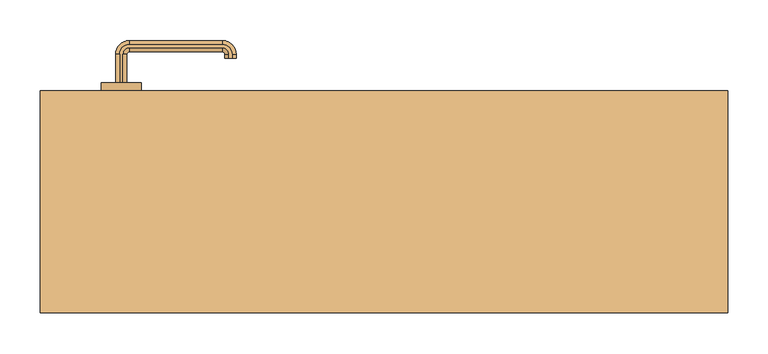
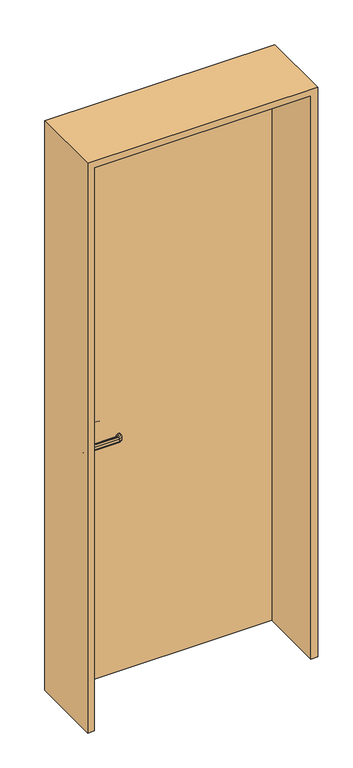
"""IFC4 building model written with IfcOpenShell, lengths in millimetres: door geometry, 片開き : w800h2200（玄関）."""

from ifc_helpers import new_model, si_unit, point, frame, frame_2d, origin, origin_with_axes, place, context, project, spatial, polyline, circle_curve, ellipse_curve, trimmed, segment, composite_curve, outline, extrude, source, transform, mapped, element, save
from ifc_brep_helpers import plane_surface, cylinder_surface, revolved_surface, advanced_brep


def door_82001614(model_context):
    return source(origin(), model_context, "Body", "SolidModel", [
        advanced_brep(
        [(-327.0, 147.5, 960.0), (-332.0, 147.5, 955.0), (-332.0, 147.5, 945.0477623), (-327.0, 147.5, 940.0477623), (-323.0, 147.5, 940.0477623), (-318.0, 147.5, 945.0477623), (-318.0, 147.5, 955.0), (-323.0, 147.5, 960.0), (-327.0, 182.5, 960.0), (-332.0, 182.5, 955.0), (-332.0, 182.5, 945.0477623), (-327.0, 182.5, 940.0477623), (-315.0, 194.5, 940.0477623), (-200.0, 194.5, 940.0477623), (-188.0, 182.5, 940.0477623), (-188.0, 177.5, 940.0477623), (-192.0, 177.5, 940.0477623), (-192.0, 182.5, 940.0477623), (-200.0, 190.5, 940.0477623), (-315.0, 190.5, 940.0477623), (-323.0, 182.5, 940.0477623), (-318.0, 182.5, 945.0477623), (-318.0, 182.5, 955.0), (-323.0, 182.5, 960.0), (-315.0, 190.5, 960.0), (-200.0, 190.5, 960.0), (-192.0, 182.5, 960.0), (-192.0, 177.5, 960.0), (-188.0, 177.5, 960.0), (-188.0, 182.5, 960.0), (-200.0, 194.5, 960.0), (-315.0, 194.5, 960.0), (-315.0, 199.5, 955.0), (-315.0, 199.5, 945.0477623), (-315.0, 185.5, 945.0477623), (-315.0, 185.5, 955.0), (-200.0, 199.5, 955.0), (-200.0, 199.5, 945.0477623), (-200.0, 185.5, 945.0477623), (-200.0, 185.5, 955.0), (-183.0, 182.5, 955.0), (-183.0, 182.5, 945.0477623), (-197.0, 182.5, 945.0477623), (-197.0, 182.5, 955.0), (-197.0, 177.5, 955.0), (-197.0, 177.5, 945.0477623), (-183.0, 177.5, 945.0477623), (-183.0, 177.5, 955.0)],
        [
            (0, 1, circle_curve(frame((-327.0, 147.5, 955.0), z_axis=(0.0, -1.0, 0.0), x_axis=(-1.0, 0.0, 0.0)), 5.0)),
            (1, 2),
            (2, 3, circle_curve(frame((-327.0, 147.5, 945.0477623), z_axis=(0.0, -1.0, 0.0), x_axis=(-1.0, 0.0, 0.0)), 5.0)),
            (3, 4),
            (4, 5, circle_curve(frame((-323.0, 147.5, 945.0477623), z_axis=(0.0, -1.0, 0.0), x_axis=(-1.0, 0.0, 0.0)), 5.0)),
            (5, 6),
            (6, 7, circle_curve(frame((-323.0, 147.5, 955.0), z_axis=(0.0, -1.0, 0.0), x_axis=(-1.0, 0.0, 0.0)), 5.0)),
            (7, 0),
            (0, 8),
            (8, 9, circle_curve(frame((-327.0, 182.5, 955.0), z_axis=(0.0, -1.0, 0.0), x_axis=(-1.0, 0.0, 0.0)), 5.0)),
            (9, 1),
            (9, 10),
            (10, 2),
            (10, 11, circle_curve(frame((-327.0, 182.5, 945.0477623), z_axis=(0.0, -1.0, 0.0), x_axis=(-1.0, 0.0, 0.0)), 5.0)),
            (11, 3),
            (11, 12, circle_curve(frame((-315.0, 182.5, 940.0477623), z_axis=(0.0, 0.0, -1.0), x_axis=(-1.0, 0.0, 0.0)), 12.0)),
            (12, 13),
            (13, 14, circle_curve(frame((-200.0, 182.5, 940.0477623), z_axis=(0.0, 0.0, -1.0), x_axis=(0.0, 1.0, 0.0)), 12.0)),
            (14, 15),
            (15, 16),
            (16, 17),
            (17, 18, circle_curve(frame((-200.0, 182.5, 940.0477623), z_axis=(0.0, 0.0, 1.0), x_axis=(0.0, 1.0, 0.0)), 8.0)),
            (18, 19),
            (19, 20, circle_curve(frame((-315.0, 182.5, 940.0477623), z_axis=(0.0, 0.0, 1.0), x_axis=(-1.0, 0.0, 0.0)), 8.0)),
            (20, 4),
            (20, 21, circle_curve(frame((-323.0, 182.5, 945.0477623), z_axis=(0.0, -1.0, 0.0), x_axis=(-1.0, 0.0, 0.0)), 5.0)),
            (21, 5),
            (21, 22),
            (22, 6),
            (22, 23, circle_curve(frame((-323.0, 182.5, 955.0), z_axis=(0.0, -1.0, 0.0), x_axis=(-1.0, 0.0, 0.0)), 5.0)),
            (23, 7),
            (23, 24, circle_curve(frame((-315.0, 182.5, 960.0), z_axis=(0.0, 0.0, -1.0), x_axis=(-1.0, 0.0, 0.0)), 8.0)),
            (24, 25),
            (25, 26, circle_curve(frame((-200.0, 182.5, 960.0), z_axis=(0.0, 0.0, -1.0), x_axis=(0.0, 1.0, 0.0)), 8.0)),
            (26, 27),
            (27, 28),
            (28, 29),
            (29, 30, circle_curve(frame((-200.0, 182.5, 960.0), z_axis=(0.0, 0.0, 1.0), x_axis=(0.0, 1.0, 0.0)), 12.0)),
            (30, 31),
            (31, 8, circle_curve(frame((-315.0, 182.5, 960.0), z_axis=(0.0, 0.0, 1.0), x_axis=(-1.0, 0.0, 0.0)), 12.0)),
            (32, 9, circle_curve(frame((-315.0, 182.5, 955.0), z_axis=(0.0, 0.0, 1.0), x_axis=(-1.0, 0.0, 0.0)), 17.0)),
            (31, 32, circle_curve(frame((-315.0, 194.5, 955.0), z_axis=(-1.0, 0.0, 0.0), x_axis=(0.0, 1.0, 0.0)), 5.0)),
            (33, 10, circle_curve(frame((-315.0, 182.5, 945.0477623), z_axis=(0.0, 0.0, 1.0), x_axis=(-1.0, 0.0, 0.0)), 17.0)),
            (32, 33),
            (33, 12, circle_curve(frame((-315.0, 194.5, 945.0477623), z_axis=(-1.0, 0.0, 0.0), x_axis=(0.0, 1.0, 0.0)), 5.0)),
            (34, 21, circle_curve(frame((-315.0, 182.5, 945.0477623), z_axis=(0.0, 0.0, 1.0), x_axis=(-1.0, 0.0, 0.0)), 3.0)),
            (19, 34, circle_curve(frame((-315.0, 190.5, 945.0477623), z_axis=(-1.0, 0.0, 0.0), x_axis=(0.0, 1.0, 0.0)), 5.0)),
            (35, 22, circle_curve(frame((-315.0, 182.5, 955.0), z_axis=(0.0, 0.0, 1.0), x_axis=(-1.0, 0.0, 0.0)), 3.0)),
            (34, 35),
            (35, 24, circle_curve(frame((-315.0, 190.5, 955.0), z_axis=(-1.0, 0.0, 0.0), x_axis=(0.0, 1.0, 0.0)), 5.0)),
            (30, 36, circle_curve(frame((-200.0, 194.5, 955.0), z_axis=(-1.0, 0.0, 0.0), x_axis=(0.0, 1.0, 0.0)), 5.0)),
            (36, 32),
            (36, 37),
            (37, 33),
            (37, 13, circle_curve(frame((-200.0, 194.5, 945.0477623), z_axis=(-1.0, 0.0, 0.0), x_axis=(0.0, 1.0, 0.0)), 5.0)),
            (18, 38, circle_curve(frame((-200.0, 190.5, 945.0477623), z_axis=(-1.0, 0.0, 0.0), x_axis=(0.0, 1.0, 0.0)), 5.0)),
            (38, 34),
            (38, 39),
            (39, 35),
            (39, 25, circle_curve(frame((-200.0, 190.5, 955.0), z_axis=(-1.0, 0.0, 0.0), x_axis=(0.0, 1.0, 0.0)), 5.0)),
            (40, 36, circle_curve(frame((-200.0, 182.5, 955.0), z_axis=(0.0, 0.0, 1.0), x_axis=(0.0, 1.0, 0.0)), 17.0)),
            (29, 40, circle_curve(frame((-188.0, 182.5, 955.0), z_axis=(0.0, 1.0, 0.0), x_axis=(1.0, 0.0, 0.0)), 5.0)),
            (41, 37, circle_curve(frame((-200.0, 182.5, 945.0477623), z_axis=(0.0, 0.0, 1.0), x_axis=(0.0, 1.0, 0.0)), 17.0)),
            (40, 41),
            (41, 14, circle_curve(frame((-188.0, 182.5, 945.0477623), z_axis=(0.0, 1.0, 0.0), x_axis=(1.0, 0.0, 0.0)), 5.0)),
            (42, 38, circle_curve(frame((-200.0, 182.5, 945.0477623), z_axis=(0.0, 0.0, 1.0), x_axis=(0.0, 1.0, 0.0)), 3.0)),
            (17, 42, circle_curve(frame((-192.0, 182.5, 945.0477623), z_axis=(0.0, 1.0, 0.0), x_axis=(1.0, 0.0, 0.0)), 5.0)),
            (43, 39, circle_curve(frame((-200.0, 182.5, 955.0), z_axis=(0.0, 0.0, 1.0), x_axis=(0.0, 1.0, 0.0)), 3.0)),
            (42, 43),
            (43, 26, circle_curve(frame((-192.0, 182.5, 955.0), z_axis=(0.0, 1.0, 0.0), x_axis=(1.0, 0.0, 0.0)), 5.0)),
            (27, 44, circle_curve(frame((-192.0, 177.5, 955.0), z_axis=(0.0, -1.0, 0.0), x_axis=(1.0, 0.0, 0.0)), 5.0)),
            (44, 45),
            (45, 16, circle_curve(frame((-192.0, 177.5, 945.0477623), z_axis=(0.0, -1.0, 0.0), x_axis=(1.0, 0.0, 0.0)), 5.0)),
            (15, 46, circle_curve(frame((-188.0, 177.5, 945.0477623), z_axis=(0.0, -1.0, 0.0), x_axis=(1.0, 0.0, 0.0)), 5.0)),
            (46, 47),
            (47, 28, circle_curve(frame((-188.0, 177.5, 955.0), z_axis=(0.0, -1.0, 0.0), x_axis=(1.0, 0.0, 0.0)), 5.0)),
            (47, 40),
            (46, 41),
            (45, 42),
            (44, 43),
        ],
        [
            plane_surface(frame((-335.198039, 147.5, 950.0), z_axis=(0.0, -1.0, 0.0), x_axis=(0.0, 0.0, 1.0))),
            cylinder_surface(frame((-327.0, 147.5, 955.0), z_axis=(0.0, -1.0, 0.0), x_axis=(-1.0, 0.0, 0.0)), 5.0),
            plane_surface(frame((-332.0, 147.5, 955.0), z_axis=(-1.0, 0.0, 0.0), x_axis=(0.0, 1.0, 0.0))),
            cylinder_surface(frame((-327.0, 147.5, 945.0477623), z_axis=(0.0, -1.0, 0.0), x_axis=(-1.0, 0.0, 0.0)), 5.0),
            plane_surface(frame((-327.0, 147.5, 940.0477623), z_axis=(0.0, 0.0, -1.0), x_axis=(0.0, 1.0, 0.0))),
            cylinder_surface(frame((-323.0, 147.5, 945.0477623), z_axis=(0.0, -1.0, 0.0), x_axis=(-1.0, 0.0, 0.0)), 5.0),
            plane_surface(frame((-318.0, 147.5, 945.0477623), z_axis=(1.0, 0.0, 0.0), x_axis=(0.0, 1.0, 0.0))),
            cylinder_surface(frame((-323.0, 147.5, 955.0), z_axis=(0.0, -1.0, 0.0), x_axis=(-1.0, 0.0, 0.0)), 5.0),
            plane_surface(frame((-323.0, 147.5, 960.0), z_axis=(0.0, 0.0, 1.0), x_axis=(0.0, 1.0, 0.0))),
            revolved_surface(trimmed(ellipse_curve(frame((-327.0, 182.5, 955.0), z_axis=(0.0, -1.0, 0.0), x_axis=(-1.0, 0.0, 0.0)), 5.0, 5.0), [point((-327.0, 182.5, 960.0))], [point((-332.0, 182.5, 955.0))], True, "CARTESIAN"), (-315.0, 182.5, 950.0), (0.0, 0.0, -1.0)),
            cylinder_surface(frame((-315.0, 182.5, 950.0), z_axis=(0.0, 0.0, -1.0), x_axis=(-1.0, 0.0, 0.0)), 17.0),
            revolved_surface(trimmed(ellipse_curve(frame((-327.0, 182.5, 945.0477623), z_axis=(0.0, -1.0, 0.0), x_axis=(-1.0, 0.0, 0.0)), 5.0, 5.0), [point((-332.0, 182.5, 945.0477623))], [point((-327.0, 182.5, 940.0477623))], True, "CARTESIAN"), (-315.0, 182.5, 950.0), (0.0, 0.0, -1.0)),
            revolved_surface(trimmed(ellipse_curve(frame((-323.0, 182.5, 945.0477623), z_axis=(0.0, -1.0, 0.0), x_axis=(-1.0, 0.0, 0.0)), 5.0, 5.0), [point((-323.0, 182.5, 940.0477623))], [point((-318.0, 182.5, 945.0477623))], True, "CARTESIAN"), (-315.0, 182.5, 950.0), (0.0, 0.0, -1.0)),
            revolved_surface(polyline([(-318.0, 182.5, 945.0477623), (-318.0, 182.5, 955.0)]), (-315.0, 182.5, 950.0), (0.0, 0.0, -1.0)),
            revolved_surface(trimmed(ellipse_curve(frame((-323.0, 182.5, 955.0), z_axis=(0.0, -1.0, 0.0), x_axis=(-1.0, 0.0, 0.0)), 5.0, 5.0), [point((-318.0, 182.5, 955.0))], [point((-323.0, 182.5, 960.0))], True, "CARTESIAN"), (-315.0, 182.5, 950.0), (0.0, 0.0, -1.0)),
            cylinder_surface(frame((-315.0, 194.5, 955.0), z_axis=(-1.0, 0.0, 0.0), x_axis=(0.0, 1.0, 0.0)), 5.0),
            plane_surface(frame((-315.0, 199.5, 955.0), z_axis=(0.0, 1.0, 0.0), x_axis=(1.0, 0.0, 0.0))),
            cylinder_surface(frame((-315.0, 194.5, 945.0477623), z_axis=(-1.0, 0.0, 0.0), x_axis=(0.0, 1.0, 0.0)), 5.0),
            cylinder_surface(frame((-315.0, 190.5, 945.0477623), z_axis=(-1.0, 0.0, 0.0), x_axis=(0.0, 1.0, 0.0)), 5.0),
            plane_surface(frame((-315.0, 185.5, 945.0477623), z_axis=(0.0, -1.0, 0.0), x_axis=(1.0, 0.0, 0.0))),
            cylinder_surface(frame((-315.0, 190.5, 955.0), z_axis=(-1.0, 0.0, 0.0), x_axis=(0.0, 1.0, 0.0)), 5.0),
            revolved_surface(trimmed(ellipse_curve(frame((-200.0, 194.5, 955.0), z_axis=(-1.0, 0.0, 0.0), x_axis=(0.0, 1.0, 0.0)), 5.0, 5.0), [point((-200.0, 194.5, 960.0))], [point((-200.0, 199.5, 955.0))], True, "CARTESIAN"), (-200.0, 182.5, 950.0), (0.0, 0.0, -1.0)),
            cylinder_surface(frame((-200.0, 182.5, 950.0), z_axis=(0.0, 0.0, -1.0), x_axis=(0.0, 1.0, 0.0)), 17.0),
            revolved_surface(trimmed(ellipse_curve(frame((-200.0, 194.5, 945.0477623), z_axis=(-1.0, 0.0, 0.0), x_axis=(0.0, 1.0, 0.0)), 5.0, 5.0), [point((-200.0, 199.5, 945.0477623))], [point((-200.0, 194.5, 940.0477623))], True, "CARTESIAN"), (-200.0, 182.5, 950.0), (0.0, 0.0, -1.0)),
            revolved_surface(trimmed(ellipse_curve(frame((-200.0, 190.5, 945.0477623), z_axis=(-1.0, 0.0, 0.0), x_axis=(0.0, 1.0, 0.0)), 5.0, 5.0), [point((-200.0, 190.5, 940.0477623))], [point((-200.0, 185.5, 945.0477623))], True, "CARTESIAN"), (-200.0, 182.5, 950.0), (0.0, 0.0, -1.0)),
            revolved_surface(polyline([(-200.0, 185.5, 945.0477623), (-200.0, 185.5, 955.0)]), (-200.0, 182.5, 950.0), (0.0, 0.0, -1.0)),
            revolved_surface(trimmed(ellipse_curve(frame((-200.0, 190.5, 955.0), z_axis=(-1.0, 0.0, 0.0), x_axis=(0.0, 1.0, 0.0)), 5.0, 5.0), [point((-200.0, 185.5, 955.0))], [point((-200.0, 190.5, 960.0))], True, "CARTESIAN"), (-200.0, 182.5, 950.0), (0.0, 0.0, -1.0)),
            plane_surface(frame((-200.198039, 177.5, 950.0), z_axis=(0.0, -1.0, 0.0), x_axis=(0.0, 0.0, -1.0))),
            cylinder_surface(frame((-188.0, 182.5, 955.0), z_axis=(0.0, 1.0, 0.0), x_axis=(1.0, 0.0, 0.0)), 5.0),
            plane_surface(frame((-183.0, 182.5, 955.0), z_axis=(1.0, 0.0, 0.0), x_axis=(0.0, -1.0, 0.0))),
            cylinder_surface(frame((-188.0, 182.5, 945.0477623), z_axis=(0.0, 1.0, 0.0), x_axis=(1.0, 0.0, 0.0)), 5.0),
            cylinder_surface(frame((-192.0, 182.5, 945.0477623), z_axis=(0.0, 1.0, 0.0), x_axis=(1.0, 0.0, 0.0)), 5.0),
            plane_surface(frame((-197.0, 182.5, 945.0477623), z_axis=(-1.0, 0.0, 0.0), x_axis=(0.0, -1.0, 0.0))),
            cylinder_surface(frame((-192.0, 182.5, 955.0), z_axis=(0.0, 1.0, 0.0), x_axis=(1.0, 0.0, 0.0)), 5.0),
        ],
        [
            (0, [[1, 2, 3, 4, 5, 6, 7, 8]]),
            (1, [[-1, 9, 10, 11]]),
            (2, [[-2, -11, 12, 13]]),
            (3, [[-3, -13, 14, 15]]),
            (4, [[-4, -15, 16, 17, 18, 19, 20, 21, 22, 23, 24, 25]]),
            (5, [[-5, -25, 26, 27]]),
            (6, [[-6, -27, 28, 29]]),
            (7, [[-7, -29, 30, 31]]),
            (8, [[-8, -31, 32, 33, 34, 35, 36, 37, 38, 39, 40, -9]]),
            (9, [[41, -10, -40, 42]]),
            (10, [[43, -12, -41, 44]]),
            (11, [[-16, -14, -43, 45]]),
            (12, [[46, -26, -24, 47]]),
            (13, [[48, -28, -46, 49]]),
            (14, [[-32, -30, -48, 50]]),
            (15, [[-42, -39, 51, 52]]),
            (16, [[-44, -52, 53, 54]]),
            (17, [[-45, -54, 55, -17]]),
            (18, [[-47, -23, 56, 57]]),
            (19, [[-49, -57, 58, 59]]),
            (20, [[-50, -59, 60, -33]]),
            (21, [[61, -51, -38, 62]]),
            (22, [[63, -53, -61, 64]]),
            (23, [[-18, -55, -63, 65]]),
            (24, [[66, -56, -22, 67]]),
            (25, [[68, -58, -66, 69]]),
            (26, [[-34, -60, -68, 70]]),
            (27, [[-36, 71, 72, 73, -20, 74, 75, 76]]),
            (28, [[-62, -37, -76, 77]]),
            (29, [[-64, -77, -75, 78]]),
            (30, [[-65, -78, -74, -19]]),
            (31, [[-67, -21, -73, 79]]),
            (32, [[-69, -79, -72, 80]]),
            (33, [[-70, -80, -71, -35]]),
        ],
    ),
        advanced_brep(
        [(-323.0, 102.5, 940.0), (-327.0, 102.5, 940.0), (-332.0, 102.5, 945.0), (-332.0, 102.5, 955.0), (-327.0, 102.5, 960.0), (-323.0, 102.5, 960.0), (-318.0, 102.5, 955.0), (-318.0, 102.5, 945.0), (-323.0, 67.5, 940.0), (-315.0, 59.5, 940.0), (-200.0, 59.5, 940.0), (-192.0, 67.5, 940.0), (-192.0, 72.5, 940.0), (-188.0, 72.5, 940.0), (-188.0, 67.5, 940.0), (-200.0, 55.5, 940.0), (-315.0, 55.5, 940.0), (-327.0, 67.5, 940.0), (-332.0, 67.5, 945.0), (-332.0, 67.5, 955.0), (-327.0, 67.5, 960.0), (-315.0, 55.5, 960.0), (-200.0, 55.5, 960.0), (-188.0, 67.5, 960.0), (-188.0, 72.5, 960.0), (-192.0, 72.5, 960.0), (-192.0, 67.5, 960.0), (-200.0, 59.5, 960.0), (-315.0, 59.5, 960.0), (-323.0, 67.5, 960.0), (-318.0, 67.5, 955.0), (-318.0, 67.5, 945.0), (-315.0, 50.5, 945.0), (-315.0, 50.5, 955.0), (-315.0, 64.5, 955.0), (-315.0, 64.5, 945.0), (-200.0, 50.5, 945.0), (-200.0, 50.5, 955.0), (-200.0, 64.5, 955.0), (-200.0, 64.5, 945.0), (-183.0, 67.5, 945.0), (-183.0, 67.5, 955.0), (-197.0, 67.5, 955.0), (-197.0, 67.5, 945.0), (-197.0, 72.5, 945.0), (-197.0, 72.5, 955.0), (-183.0, 72.5, 955.0), (-183.0, 72.5, 945.0)],
        [
            (0, 1),
            (1, 2, circle_curve(frame((-327.0, 102.5, 945.0), z_axis=(0.0, 1.0, 0.0), x_axis=(1.0, 0.0, 0.0)), 5.0)),
            (2, 3),
            (3, 4, circle_curve(frame((-327.0, 102.5, 955.0), z_axis=(0.0, 1.0, 0.0), x_axis=(1.0, 0.0, 0.0)), 5.0)),
            (4, 5),
            (5, 6, circle_curve(frame((-323.0, 102.5, 955.0), z_axis=(0.0, 1.0, 0.0), x_axis=(1.0, 0.0, 0.0)), 5.0)),
            (6, 7),
            (7, 0, circle_curve(frame((-323.0, 102.5, 945.0), z_axis=(0.0, 1.0, 0.0), x_axis=(1.0, 0.0, 0.0)), 5.0)),
            (0, 8),
            (8, 9, circle_curve(frame((-315.0, 67.5, 940.0), z_axis=(0.0, 0.0, 1.0), x_axis=(-1.0, 0.0, 0.0)), 8.0)),
            (9, 10),
            (10, 11, circle_curve(frame((-200.0, 67.5, 940.0), z_axis=(0.0, 0.0, 1.0), x_axis=(0.0, -1.0, 0.0)), 8.0)),
            (11, 12),
            (12, 13),
            (13, 14),
            (14, 15, circle_curve(frame((-200.0, 67.5, 940.0), z_axis=(0.0, 0.0, -1.0), x_axis=(0.0, -1.0, 0.0)), 12.0)),
            (15, 16),
            (16, 17, circle_curve(frame((-315.0, 67.5, 940.0), z_axis=(0.0, 0.0, -1.0), x_axis=(-1.0, 0.0, 0.0)), 12.0)),
            (17, 1),
            (17, 18, circle_curve(frame((-327.0, 67.5, 945.0), z_axis=(0.0, 1.0, 0.0), x_axis=(1.0, 0.0, 0.0)), 5.0)),
            (18, 2),
            (18, 19),
            (19, 3),
            (19, 20, circle_curve(frame((-327.0, 67.5, 955.0), z_axis=(0.0, 1.0, 0.0), x_axis=(1.0, 0.0, 0.0)), 5.0)),
            (20, 4),
            (20, 21, circle_curve(frame((-315.0, 67.5, 960.0), z_axis=(0.0, 0.0, 1.0), x_axis=(-1.0, 0.0, 0.0)), 12.0)),
            (21, 22),
            (22, 23, circle_curve(frame((-200.0, 67.5, 960.0), z_axis=(0.0, 0.0, 1.0), x_axis=(0.0, -1.0, 0.0)), 12.0)),
            (23, 24),
            (24, 25),
            (25, 26),
            (26, 27, circle_curve(frame((-200.0, 67.5, 960.0), z_axis=(0.0, 0.0, -1.0), x_axis=(0.0, -1.0, 0.0)), 8.0)),
            (27, 28),
            (28, 29, circle_curve(frame((-315.0, 67.5, 960.0), z_axis=(0.0, 0.0, -1.0), x_axis=(-1.0, 0.0, 0.0)), 8.0)),
            (29, 5),
            (29, 30, circle_curve(frame((-323.0, 67.5, 955.0), z_axis=(0.0, 1.0, 0.0), x_axis=(1.0, 0.0, 0.0)), 5.0)),
            (30, 6),
            (30, 31),
            (31, 7),
            (31, 8, circle_curve(frame((-323.0, 67.5, 945.0), z_axis=(0.0, 1.0, 0.0), x_axis=(1.0, 0.0, 0.0)), 5.0)),
            (32, 18, circle_curve(frame((-315.0, 67.5, 945.0), z_axis=(0.0, 0.0, -1.0), x_axis=(-1.0, 0.0, 0.0)), 17.0)),
            (16, 32, circle_curve(frame((-315.0, 55.5, 945.0), z_axis=(-1.0, 0.0, 0.0), x_axis=(0.0, 1.0, 0.0)), 5.0)),
            (33, 19, circle_curve(frame((-315.0, 67.5, 955.0), z_axis=(0.0, 0.0, -1.0), x_axis=(-1.0, 0.0, 0.0)), 17.0)),
            (32, 33),
            (33, 21, circle_curve(frame((-315.0, 55.5, 955.0), z_axis=(-1.0, 0.0, 0.0), x_axis=(0.0, 1.0, 0.0)), 5.0)),
            (34, 30, circle_curve(frame((-315.0, 67.5, 955.0), z_axis=(0.0, 0.0, -1.0), x_axis=(-1.0, 0.0, 0.0)), 3.0)),
            (28, 34, circle_curve(frame((-315.0, 59.5, 955.0), z_axis=(-1.0, 0.0, 0.0), x_axis=(0.0, 1.0, 0.0)), 5.0)),
            (35, 31, circle_curve(frame((-315.0, 67.5, 945.0), z_axis=(0.0, 0.0, -1.0), x_axis=(-1.0, 0.0, 0.0)), 3.0)),
            (34, 35),
            (35, 9, circle_curve(frame((-315.0, 59.5, 945.0), z_axis=(-1.0, 0.0, 0.0), x_axis=(0.0, 1.0, 0.0)), 5.0)),
            (15, 36, circle_curve(frame((-200.0, 55.5, 945.0), z_axis=(-1.0, 0.0, 0.0), x_axis=(0.0, 1.0, 0.0)), 5.0)),
            (36, 32),
            (36, 37),
            (37, 33),
            (37, 22, circle_curve(frame((-200.0, 55.5, 955.0), z_axis=(-1.0, 0.0, 0.0), x_axis=(0.0, 1.0, 0.0)), 5.0)),
            (27, 38, circle_curve(frame((-200.0, 59.5, 955.0), z_axis=(-1.0, 0.0, 0.0), x_axis=(0.0, 1.0, 0.0)), 5.0)),
            (38, 34),
            (38, 39),
            (39, 35),
            (39, 10, circle_curve(frame((-200.0, 59.5, 945.0), z_axis=(-1.0, 0.0, 0.0), x_axis=(0.0, 1.0, 0.0)), 5.0)),
            (40, 36, circle_curve(frame((-200.0, 67.5, 945.0), z_axis=(0.0, 0.0, -1.0), x_axis=(0.0, -1.0, 0.0)), 17.0)),
            (14, 40, circle_curve(frame((-188.0, 67.5, 945.0), z_axis=(0.0, -1.0, 0.0), x_axis=(-1.0, 0.0, 0.0)), 5.0)),
            (41, 37, circle_curve(frame((-200.0, 67.5, 955.0), z_axis=(0.0, 0.0, -1.0), x_axis=(0.0, -1.0, 0.0)), 17.0)),
            (40, 41),
            (41, 23, circle_curve(frame((-188.0, 67.5, 955.0), z_axis=(0.0, -1.0, 0.0), x_axis=(-1.0, 0.0, 0.0)), 5.0)),
            (42, 38, circle_curve(frame((-200.0, 67.5, 955.0), z_axis=(0.0, 0.0, -1.0), x_axis=(0.0, -1.0, 0.0)), 3.0)),
            (26, 42, circle_curve(frame((-192.0, 67.5, 955.0), z_axis=(0.0, -1.0, 0.0), x_axis=(-1.0, 0.0, 0.0)), 5.0)),
            (43, 39, circle_curve(frame((-200.0, 67.5, 945.0), z_axis=(0.0, 0.0, -1.0), x_axis=(0.0, -1.0, 0.0)), 3.0)),
            (42, 43),
            (43, 11, circle_curve(frame((-192.0, 67.5, 945.0), z_axis=(0.0, -1.0, 0.0), x_axis=(-1.0, 0.0, 0.0)), 5.0)),
            (12, 44, circle_curve(frame((-192.0, 72.5, 945.0), z_axis=(0.0, 1.0, 0.0), x_axis=(-1.0, 0.0, 0.0)), 5.0)),
            (44, 45),
            (45, 25, circle_curve(frame((-192.0, 72.5, 955.0), z_axis=(0.0, 1.0, 0.0), x_axis=(-1.0, 0.0, 0.0)), 5.0)),
            (24, 46, circle_curve(frame((-188.0, 72.5, 955.0), z_axis=(0.0, 1.0, 0.0), x_axis=(-1.0, 0.0, 0.0)), 5.0)),
            (46, 47),
            (47, 13, circle_curve(frame((-188.0, 72.5, 945.0), z_axis=(0.0, 1.0, 0.0), x_axis=(-1.0, 0.0, 0.0)), 5.0)),
            (47, 40),
            (46, 41),
            (45, 42),
            (44, 43),
        ],
        [
            plane_surface(frame((-335.198039, 102.5, 950.0), z_axis=(0.0, 1.0, 0.0), x_axis=(0.0, 0.0, -1.0))),
            plane_surface(frame((-323.0, 102.5, 940.0), z_axis=(0.0, 0.0, -1.0), x_axis=(0.0, -1.0, 0.0))),
            cylinder_surface(frame((-327.0, 102.5, 945.0), z_axis=(0.0, 1.0, 0.0), x_axis=(1.0, 0.0, 0.0)), 5.0),
            plane_surface(frame((-332.0, 102.5, 945.0), z_axis=(-1.0, 0.0, 0.0), x_axis=(0.0, -1.0, 0.0))),
            cylinder_surface(frame((-327.0, 102.5, 955.0), z_axis=(0.0, 1.0, 0.0), x_axis=(1.0, 0.0, 0.0)), 5.0),
            plane_surface(frame((-327.0, 102.5, 960.0), z_axis=(0.0, 0.0, 1.0), x_axis=(0.0, -1.0, 0.0))),
            cylinder_surface(frame((-323.0, 102.5, 955.0), z_axis=(0.0, 1.0, 0.0), x_axis=(1.0, 0.0, 0.0)), 5.0),
            plane_surface(frame((-318.0, 102.5, 955.0), z_axis=(1.0, 0.0, 0.0), x_axis=(0.0, -1.0, 0.0))),
            cylinder_surface(frame((-323.0, 102.5, 945.0), z_axis=(0.0, 1.0, 0.0), x_axis=(1.0, 0.0, 0.0)), 5.0),
            revolved_surface(trimmed(ellipse_curve(frame((-327.0, 67.5, 945.0), z_axis=(0.0, 1.0, 0.0), x_axis=(1.0, 0.0, 0.0)), 5.0, 5.0), [point((-327.0, 67.5, 940.0))], [point((-332.0, 67.5, 945.0))], True, "CARTESIAN"), (-315.0, 67.5, 950.0), (0.0, 0.0, 1.0)),
            cylinder_surface(frame((-315.0, 67.5, 950.0), z_axis=(0.0, 0.0, 1.0), x_axis=(-1.0, 0.0, 0.0)), 17.0),
            revolved_surface(trimmed(ellipse_curve(frame((-327.0, 67.5, 955.0), z_axis=(0.0, 1.0, 0.0), x_axis=(1.0, 0.0, 0.0)), 5.0, 5.0), [point((-332.0, 67.5, 955.0))], [point((-327.0, 67.5, 960.0))], True, "CARTESIAN"), (-315.0, 67.5, 950.0), (0.0, 0.0, 1.0)),
            revolved_surface(trimmed(ellipse_curve(frame((-323.0, 67.5, 955.0), z_axis=(0.0, 1.0, 0.0), x_axis=(1.0, 0.0, 0.0)), 5.0, 5.0), [point((-323.0, 67.5, 960.0))], [point((-318.0, 67.5, 955.0))], True, "CARTESIAN"), (-315.0, 67.5, 950.0), (0.0, 0.0, 1.0)),
            revolved_surface(polyline([(-318.0, 67.5, 955.0), (-318.0, 67.5, 945.0)]), (-315.0, 67.5, 950.0), (0.0, 0.0, 1.0)),
            revolved_surface(trimmed(ellipse_curve(frame((-323.0, 67.5, 945.0), z_axis=(0.0, 1.0, 0.0), x_axis=(1.0, 0.0, 0.0)), 5.0, 5.0), [point((-318.0, 67.5, 945.0))], [point((-323.0, 67.5, 940.0))], True, "CARTESIAN"), (-315.0, 67.5, 950.0), (0.0, 0.0, 1.0)),
            cylinder_surface(frame((-315.0, 55.5, 945.0), z_axis=(-1.0, 0.0, 0.0), x_axis=(0.0, 1.0, 0.0)), 5.0),
            plane_surface(frame((-315.0, 50.5, 945.0), z_axis=(0.0, -1.0, 0.0), x_axis=(1.0, 0.0, 0.0))),
            cylinder_surface(frame((-315.0, 55.5, 955.0), z_axis=(-1.0, 0.0, 0.0), x_axis=(0.0, 1.0, 0.0)), 5.0),
            cylinder_surface(frame((-315.0, 59.5, 955.0), z_axis=(-1.0, 0.0, 0.0), x_axis=(0.0, 1.0, 0.0)), 5.0),
            plane_surface(frame((-315.0, 64.5, 955.0), z_axis=(0.0, 1.0, 0.0), x_axis=(1.0, 0.0, 0.0))),
            cylinder_surface(frame((-315.0, 59.5, 945.0), z_axis=(-1.0, 0.0, 0.0), x_axis=(0.0, 1.0, 0.0)), 5.0),
            revolved_surface(trimmed(ellipse_curve(frame((-200.0, 55.5, 945.0), z_axis=(-1.0, 0.0, 0.0), x_axis=(0.0, 1.0, 0.0)), 5.0, 5.0), [point((-200.0, 55.5, 940.0))], [point((-200.0, 50.5, 945.0))], True, "CARTESIAN"), (-200.0, 67.5, 950.0), (0.0, 0.0, 1.0)),
            cylinder_surface(frame((-200.0, 67.5, 950.0), z_axis=(0.0, 0.0, 1.0), x_axis=(0.0, -1.0, 0.0)), 17.0),
            revolved_surface(trimmed(ellipse_curve(frame((-200.0, 55.5, 955.0), z_axis=(-1.0, 0.0, 0.0), x_axis=(0.0, 1.0, 0.0)), 5.0, 5.0), [point((-200.0, 50.5, 955.0))], [point((-200.0, 55.5, 960.0))], True, "CARTESIAN"), (-200.0, 67.5, 950.0), (0.0, 0.0, 1.0)),
            revolved_surface(trimmed(ellipse_curve(frame((-200.0, 59.5, 955.0), z_axis=(-1.0, 0.0, 0.0), x_axis=(0.0, 1.0, 0.0)), 5.0, 5.0), [point((-200.0, 59.5, 960.0))], [point((-200.0, 64.5, 955.0))], True, "CARTESIAN"), (-200.0, 67.5, 950.0), (0.0, 0.0, 1.0)),
            revolved_surface(polyline([(-200.0, 64.5, 955.0), (-200.0, 64.5, 945.0)]), (-200.0, 67.5, 950.0), (0.0, 0.0, 1.0)),
            revolved_surface(trimmed(ellipse_curve(frame((-200.0, 59.5, 945.0), z_axis=(-1.0, 0.0, 0.0), x_axis=(0.0, 1.0, 0.0)), 5.0, 5.0), [point((-200.0, 64.5, 945.0))], [point((-200.0, 59.5, 940.0))], True, "CARTESIAN"), (-200.0, 67.5, 950.0), (0.0, 0.0, 1.0)),
            plane_surface(frame((-200.198039, 72.5, 950.0), z_axis=(0.0, 1.0, 0.0), x_axis=(0.0, 0.0, 1.0))),
            cylinder_surface(frame((-188.0, 67.5, 945.0), z_axis=(0.0, -1.0, 0.0), x_axis=(-1.0, 0.0, 0.0)), 5.0),
            plane_surface(frame((-183.0, 67.5, 945.0), z_axis=(1.0, 0.0, 0.0), x_axis=(0.0, 1.0, 0.0))),
            cylinder_surface(frame((-188.0, 67.5, 955.0), z_axis=(0.0, -1.0, 0.0), x_axis=(-1.0, 0.0, 0.0)), 5.0),
            cylinder_surface(frame((-192.0, 67.5, 955.0), z_axis=(0.0, -1.0, 0.0), x_axis=(-1.0, 0.0, 0.0)), 5.0),
            plane_surface(frame((-197.0, 67.5, 955.0), z_axis=(-1.0, 0.0, 0.0), x_axis=(0.0, 1.0, 0.0))),
            cylinder_surface(frame((-192.0, 67.5, 945.0), z_axis=(0.0, -1.0, 0.0), x_axis=(-1.0, 0.0, 0.0)), 5.0),
        ],
        [
            (0, [[1, 2, 3, 4, 5, 6, 7, 8]]),
            (1, [[-1, 9, 10, 11, 12, 13, 14, 15, 16, 17, 18, 19]]),
            (2, [[-2, -19, 20, 21]]),
            (3, [[-3, -21, 22, 23]]),
            (4, [[-4, -23, 24, 25]]),
            (5, [[-5, -25, 26, 27, 28, 29, 30, 31, 32, 33, 34, 35]]),
            (6, [[-6, -35, 36, 37]]),
            (7, [[-7, -37, 38, 39]]),
            (8, [[-8, -39, 40, -9]]),
            (9, [[41, -20, -18, 42]]),
            (10, [[43, -22, -41, 44]]),
            (11, [[-26, -24, -43, 45]]),
            (12, [[46, -36, -34, 47]]),
            (13, [[48, -38, -46, 49]]),
            (14, [[-10, -40, -48, 50]]),
            (15, [[-42, -17, 51, 52]]),
            (16, [[-44, -52, 53, 54]]),
            (17, [[-45, -54, 55, -27]]),
            (18, [[-47, -33, 56, 57]]),
            (19, [[-49, -57, 58, 59]]),
            (20, [[-50, -59, 60, -11]]),
            (21, [[61, -51, -16, 62]]),
            (22, [[63, -53, -61, 64]]),
            (23, [[-28, -55, -63, 65]]),
            (24, [[66, -56, -32, 67]]),
            (25, [[68, -58, -66, 69]]),
            (26, [[-12, -60, -68, 70]]),
            (27, [[71, 72, 73, -30, 74, 75, 76, -14]]),
            (28, [[-62, -15, -76, 77]]),
            (29, [[-64, -77, -75, 78]]),
            (30, [[-65, -78, -74, -29]]),
            (31, [[-67, -31, -73, 79]]),
            (32, [[-69, -79, -72, 80]]),
            (33, [[-70, -80, -71, -13]]),
        ],
    ),
        extrude(outline(composite_curve([segment(trimmed(circle_curve(frame_2d((950.0, -325.0)), 25.0), [point((950.0, -350.0))], [point((950.0, -300.0))], False, "CARTESIAN"), True, "CONTINUOUS"), segment(trimmed(circle_curve(frame_2d((950.0, -325.0)), 25.0), [point((950.0, -300.0))], [point((950.0, -350.0))], False, "CARTESIAN"), True, "CONTINUOUS")], self_intersect=False)), frame((0.0, 137.5, 0.0), z_axis=(0.0, 1.0, 0.0), x_axis=(0.0, 0.0, 1.0)), (0.0, 0.0, 1.0), 10.0),
        extrude(outline(composite_curve([segment(trimmed(circle_curve(frame_2d((950.0, -325.0)), 25.0), [point((950.0, -350.0))], [point((950.0, -300.0))], False, "CARTESIAN"), True, "CONTINUOUS"), segment(trimmed(circle_curve(frame_2d((950.0, -325.0)), 25.0), [point((950.0, -300.0))], [point((950.0, -350.0))], False, "CARTESIAN"), True, "CONTINUOUS")], self_intersect=False)), frame((0.0, 102.5, 0.0), z_axis=(0.0, 1.0, 0.0), x_axis=(0.0, 0.0, 1.0)), (0.0, 0.0, 1.0), 10.0),
        extrude(outline(polyline([(400.0, 112.5), (-400.0, 112.5), (-400.0, 137.5), (400.0, 137.5), (400.0, 112.5)])), origin_with_axes(), (0.0, 0.0, 1.0), 2200.0),
        extrude(outline(polyline([(2225.0, -425.0), (0.0, -425.0), (0.0, -400.0), (2200.0, -400.0), (2200.0, 400.0), (0.0, 400.0), (0.0, 425.0), (2225.0, 425.0), (2225.0, -425.0)])), frame((0.0, -137.5, 0.0), z_axis=(0.0, 1.0, 0.0), x_axis=(0.0, 0.0, 1.0)), (0.0, 0.0, 1.0), 275.0),
    ])


if __name__ == "__main__":
    model = new_model("IFC4")
    model_context = context("Model", 3, world=origin())
    ifc_project = project(units=[si_unit("LENGTHUNIT", "METRE", prefix="MILLI")], contexts=[model_context])
    site = spatial("IfcSite", under=ifc_project)
    building = spatial("IfcBuilding", under=site)
    placement = place(None, origin())
    door_shape = door_82001614(model_context)
    element("IfcDoor", 1, ObjectType="片開き : w800h2200（玄関）", at=placement, inside=building, context=model_context, shape_type="MappedRepresentation", body=[
        mapped(door_shape, transform((0.0, 0.0, 0.0), x_axis=(1.0, 0.0, 0.0), y_axis=(0.0, 1.0, 0.0), z_axis=(0.0, 0.0, 1.0))),
    ])
    save(model, "model.ifc")
